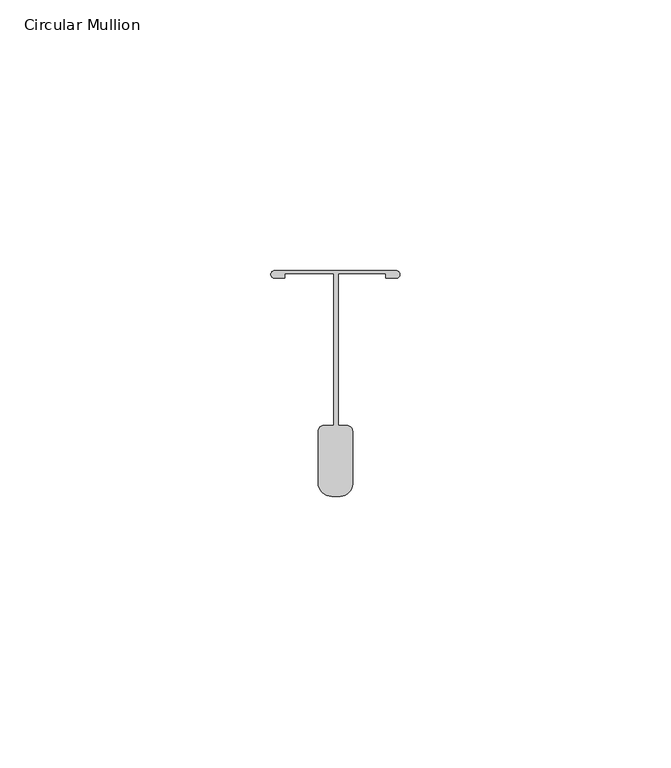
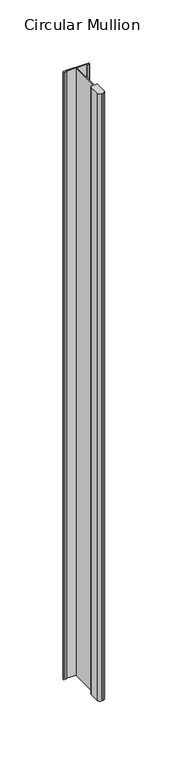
"""IFC4 building model written with IfcOpenShell, lengths in millimetres: member geometry, Circular Mullion : Main Runners."""

from ifc_helpers import new_model, si_unit, point, frame, frame_2d, origin, place, context, project, spatial, polyline, circle_curve, trimmed, segment, composite_curve, outline, extrude, source, transform, mapped, element, save


def circular_mullion_f9b5ef4a(model_context):
    return source(origin(), model_context, "Body", "SweptSolid", [
        extrude(outline(composite_curve([segment(trimmed(circle_curve(frame_2d((2.0974658, -23.0292967)), 1.0775342), [point((2.0974658, -21.9517625))], [point((3.175, -23.0292967))], False, "CARTESIAN"), True, "CONTINUOUS"), segment(polyline([(3.175, -23.0292967), (3.175, -32.7504623)]), True, "CONTINUOUS"), segment(trimmed(circle_curve(frame_2d((0.8836999, -32.7504623)), 2.2913001), [point((3.175, -32.7504623))], [point((0.8836999, -35.0417625))], False, "CARTESIAN"), True, "CONTINUOUS"), segment(polyline([(0.8836999, -35.0417625), (-0.6508994, -35.0417625)]), True, "CONTINUOUS"), segment(trimmed(circle_curve(frame_2d((-0.6508994, -32.5176619)), 2.5241006), [point((-0.6508994, -35.0417625))], [point((-3.175, -32.5176619))], False, "CARTESIAN"), True, "CONTINUOUS"), segment(polyline([(-3.175, -32.5176619), (-3.175, -23.0292967)]), True, "CONTINUOUS"), segment(trimmed(circle_curve(frame_2d((-2.0974658, -23.0292967)), 1.0775342), [point((-3.175, -23.0292967))], [point((-2.0974658, -21.9517625))], False, "CARTESIAN"), True, "CONTINUOUS"), segment(polyline([(-2.0974658, -21.9517625), (-0.3211248, -21.9517625), (-0.3211248, 6.0459958), (-9.318924, 6.0459958), (-9.318924, 5.2459958), (-11.2221291, 5.2459958)]), True, "CONTINUOUS"), segment(trimmed(circle_curve(frame_2d((-11.2221291, 5.9301166)), 0.6841209), [point((-11.2221291, 5.2459958))], [point((-11.90625, 5.9301166))], False, "CARTESIAN"), True, "CONTINUOUS"), segment(trimmed(circle_curve(frame_2d((-11.2221291, 5.9301166)), 0.6841209), [point((-11.90625, 5.9301166))], [point((-11.2221291, 6.6142375))], False, "CARTESIAN"), True, "CONTINUOUS"), segment(polyline([(-11.2221291, 6.6142375), (11.2221291, 6.6142375)]), True, "CONTINUOUS"), segment(trimmed(circle_curve(frame_2d((11.2221291, 5.9301166)), 0.6841209), [point((11.2221291, 6.6142375))], [point((11.90625, 5.9301166))], False, "CARTESIAN"), True, "CONTINUOUS"), segment(trimmed(circle_curve(frame_2d((11.2221291, 5.9301166)), 0.6841209), [point((11.90625, 5.9301166))], [point((11.2221291, 5.2459958))], False, "CARTESIAN"), True, "CONTINUOUS"), segment(polyline([(11.2221291, 5.2459958), (9.318924, 5.2459958), (9.318924, 6.0459958), (0.5117194, 6.0459958), (0.5117194, -21.9517625), (2.0974658, -21.9517625)]), True, "CONTINUOUS")], self_intersect=False)), frame((0.0, 0.0, -588.0937503), z_axis=(0.0, 0.0, 1.0), x_axis=(1.0, 0.0, 0.0)), (0.0, 0.0, 1.0), 588.0937503),
    ])


if __name__ == "__main__":
    model = new_model("IFC4")
    model_context = context("Model", 3, world=origin())
    ifc_project = project(units=[si_unit("LENGTHUNIT", "METRE", prefix="MILLI")], contexts=[model_context])
    site = spatial("IfcSite", under=ifc_project)
    building = spatial("IfcBuilding", under=site)
    placement = place(None, origin())
    circular_mullion_shape = circular_mullion_f9b5ef4a(model_context)
    element("IfcMember", 1, ObjectType="Circular Mullion : Main Runners", at=placement, inside=building, context=model_context, shape_type="MappedRepresentation", body=[
        mapped(circular_mullion_shape, transform((0.0, 0.0, 0.0), x_axis=(1.0, 0.0, 0.0), y_axis=(0.0, 1.0, 0.0), z_axis=(0.0, 0.0, 1.0))),
    ])
    save(model, "model.ifc")
